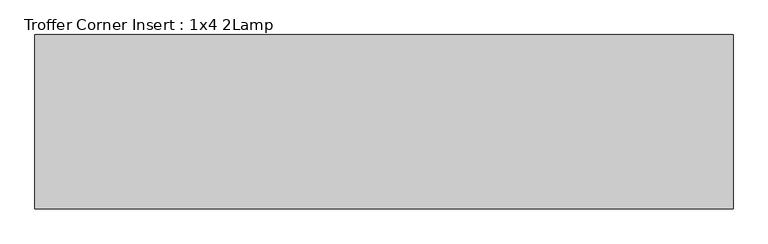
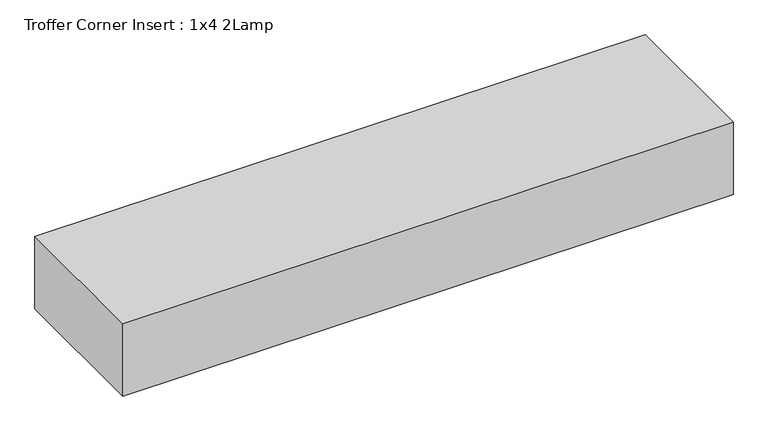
"""IFC4 building model written with IfcOpenShell, lengths in millimetres: light fixture geometry, Troffer Corner Insert : 1x4 2Lamp."""

import ifcopenshell
import ifcopenshell.guid

model = None  # the IFC model being written
_history = None  # IfcOwnerHistory: only IFC2X3 demands one
_inside = {}  # id of a spatial element -> (the spatial element, [elements in it])
_under = {}  # id of a project, library or spatial element -> (it, [spatial elements below it])
_declared = {}  # id of a project -> (the project, [libraries it declares])
_typed = {}  # id of a type object -> (the type object, [elements of that type])
_made_of = {}  # id of a material, layer set ... -> (it, [elements and type objects made of it])


def new_model(schema):
    """Start an empty IFC model of exactly this schema.

    Asked for "IFC4X3", IfcOpenShell would pick the latest addendum, in which some entities
    have other attributes; the version numbers below select the first issue.
    IFC2X3 requires an IfcOwnerHistory on every rooted entity: one is made here for all.
    """
    global model, _history
    if schema == "IFC4X3":
        model = ifcopenshell.file(schema_version=(4, 3, 0, 0))
    else:
        model = ifcopenshell.file(schema=schema)
    _inside.clear()
    _under.clear()
    _declared.clear()
    _typed.clear()
    _made_of.clear()
    _history = None
    if model.schema == "IFC2X3":
        org = make("IfcOrganization", Name="unknown")
        user = make(
            "IfcPersonAndOrganization",
            ThePerson=make("IfcPerson", FamilyName="unknown"),
            TheOrganization=org,
        )
        app = make(
            "IfcApplication",
            ApplicationDeveloper=org,
            Version="unknown",
            ApplicationFullName="unknown",
            ApplicationIdentifier="unknown",
        )
        _history = make(
            "IfcOwnerHistory",
            OwningUser=user,
            OwningApplication=app,
            ChangeAction="ADDED",
            CreationDate=0,
        )
    return model


def make(cls, **values):
    """One entity of the class cls with the attributes given. An attribute that is None is left unset."""
    return model.create_entity(
        cls, **{name: value for name, value in values.items() if value is not None}
    )


def rooted(cls, **values):
    """An entity with a GlobalId (a new one), such as an element, a storey or a relation."""
    return make(cls, GlobalId=ifcopenshell.guid.new(), OwnerHistory=_history, **values)


def si_unit(unit_type, name, prefix=None):
    """IfcSIUnit, for example si_unit("LENGTHUNIT", "METRE", prefix="MILLI")."""
    return make("IfcSIUnit", UnitType=unit_type, Prefix=prefix, Name=name)


def assignment(units):
    """IfcUnitAssignment: the units of a project."""
    return None if units is None else make("IfcUnitAssignment", Units=units)


def point(xyz):
    """IfcCartesianPoint."""
    return None if xyz is None else make("IfcCartesianPoint", Coordinates=xyz)


def direction(xyz):
    """IfcDirection."""
    return None if xyz is None else make("IfcDirection", DirectionRatios=xyz)


def frame(location, z_axis=None, x_axis=None):
    """IfcAxis2Placement3D, a coordinate frame: its origin and axes. An axis left out is left unset."""
    return make(
        "IfcAxis2Placement3D",
        Location=point(location),
        Axis=direction(z_axis),
        RefDirection=direction(x_axis),
    )


def origin():
    """The frame at (0, 0, 0) with its axes left unset."""
    return frame((0.0, 0.0, 0.0))


def place(relative_to, where):
    """IfcLocalPlacement: puts the frame where relative to a parent placement (None: the world)."""
    return make(
        "IfcLocalPlacement", PlacementRelTo=relative_to, RelativePlacement=where
    )


def context(
    kind, dimensions, precision=None, world=None, true_north=None, identifier=None
):
    """IfcGeometricRepresentationContext, for example the 3D "Model" context."""
    return make(
        "IfcGeometricRepresentationContext",
        ContextIdentifier=identifier,
        ContextType=kind,
        CoordinateSpaceDimension=dimensions,
        Precision=precision,
        WorldCoordinateSystem=world,
        TrueNorth=true_north,
    )


def project(units=None, contexts=None):
    """IfcProject with its units and contexts."""
    return rooted(
        "IfcProject",
        Name="project",
        RepresentationContexts=contexts,
        UnitsInContext=assignment(units),
    )


def spatial(cls, under=None, at=None, **own):
    """A site, building, storey or space (cls), placed at a placement, below another one or the project."""
    s = rooted(cls, ObjectPlacement=at, **own)
    if under is not None:
        _under.setdefault(under.id(), (under, []))[1].append(s)
    return s


def polyline(points):
    """IfcPolyline through the points."""
    return make("IfcPolyline", Points=[point(p) for p in points])


def outline(outer, holes=None, kind="AREA"):
    """IfcArbitraryClosedProfileDef: a profile drawn as a closed curve; with holes, ...WithVoids."""
    if holes is None:
        return make("IfcArbitraryClosedProfileDef", ProfileType=kind, OuterCurve=outer)
    return make(
        "IfcArbitraryProfileDefWithVoids",
        ProfileType=kind,
        OuterCurve=outer,
        InnerCurves=holes,
    )


def extrude(swept, where, along, depth):
    """IfcExtrudedAreaSolid: the profile swept, set in the frame where, extruded along a direction by depth."""
    return make(
        "IfcExtrudedAreaSolid",
        SweptArea=swept,
        Position=where,
        ExtrudedDirection=direction(along),
        Depth=depth,
    )


def shape(context_of_items, identifier, shape_type, items):
    """IfcShapeRepresentation: the items that make up one representation, for example the "Body"."""
    return make(
        "IfcShapeRepresentation",
        ContextOfItems=context_of_items,
        RepresentationIdentifier=identifier,
        RepresentationType=shape_type,
        Items=items,
    )


def source(mapping_origin, context_of_items, identifier, shape_type, items):
    """IfcRepresentationMap: a shape defined once, which mapped items show again and again."""
    return make(
        "IfcRepresentationMap",
        MappingOrigin=mapping_origin,
        MappedRepresentation=shape(context_of_items, identifier, shape_type, items),
    )


def transform(
    local_origin,
    x_axis=None,
    y_axis=None,
    z_axis=None,
    scale=None,
    scale2=None,
    scale3=None,
    uniform=True,
):
    """IfcCartesianTransformationOperator3D, or its non-uniform kind. x_axis, y_axis, z_axis: its Axis1, 2, 3."""
    if uniform:
        return make(
            "IfcCartesianTransformationOperator3D",
            Axis1=direction(x_axis),
            Axis2=direction(y_axis),
            LocalOrigin=point(local_origin),
            Scale=scale,
            Axis3=direction(z_axis),
        )
    return make(
        "IfcCartesianTransformationOperator3DnonUniform",
        Axis1=direction(x_axis),
        Axis2=direction(y_axis),
        LocalOrigin=point(local_origin),
        Scale=scale,
        Axis3=direction(z_axis),
        Scale2=scale2,
        Scale3=scale3,
    )


def mapped(mapping_source, mapping_target):
    """IfcMappedItem: shows the shape of a source again, moved by a transform."""
    return make(
        "IfcMappedItem", MappingSource=mapping_source, MappingTarget=mapping_target
    )


def made_of(thing, what):
    """Note that an element or type object is made of a material, layer set ...; save() writes the relation."""
    if what is not None:
        _made_of.setdefault(what.id(), (what, []))[1].append(thing)
    return thing


def element(
    cls,
    number,
    at=None,
    inside=None,
    cuts=None,
    type_object=None,
    material=None,
    context=None,
    identifier="Body",
    shape_type=None,
    held_by="IfcProductDefinitionShape",
    body=None,
    shapes=None,
    **own,
):
    """One element of the class cls, such as IfcWall. Its Tag is "e" and its number.

    at: its placement. inside: the storey or other place that contains it. cuts: it is an
    opening in that element (IfcRelVoidsElement). A single representation is given by context,
    identifier, shape_type and body (its items); several are given by shapes. held_by: the class
    of the entity that holds the representations. save() writes the other relations.
    """
    e = rooted(cls, Tag="e%d" % number, ObjectPlacement=at, **own)
    if body is not None:
        shapes = [shape(context, identifier, shape_type, body)]
    if shapes is not None:
        e.Representation = make(held_by, Representations=shapes)
    if inside is not None:
        _inside.setdefault(inside.id(), (inside, []))[1].append(e)
    if cuts is not None:
        rooted(
            "IfcRelVoidsElement", RelatingBuildingElement=cuts, RelatedOpeningElement=e
        )
    if type_object is not None:
        _typed.setdefault(type_object.id(), (type_object, []))[1].append(e)
    return made_of(e, material)


def aggregate(whole, parts):
    """IfcRelAggregates: a whole, such as a stair, and the parts it consists of."""
    return rooted("IfcRelAggregates", RelatingObject=whole, RelatedObjects=parts)


def save(model, path):
    """Write the relations noted so far, then the file.

    IfcRelAggregates (storeys below a building ...), IfcRelContainedInSpatialStructure (elements
    in a storey), IfcRelDefinesByType, IfcRelAssociatesMaterial and IfcRelDeclares: one each for
    every whole, place, type object, material and project.
    """
    for whole, parts in _under.values():
        aggregate(whole, parts)
    for where, things in _inside.values():
        rooted(
            "IfcRelContainedInSpatialStructure",
            RelatedElements=things,
            RelatingStructure=where,
        )
    for kind, things in _typed.values():
        rooted("IfcRelDefinesByType", RelatedObjects=things, RelatingType=kind)
    for what, things in _made_of.values():
        rooted("IfcRelAssociatesMaterial", RelatedObjects=things, RelatingMaterial=what)
    for by, libraries in _declared.values():
        rooted("IfcRelDeclares", RelatingContext=by, RelatedDefinitions=libraries)
    model.write(path)


def troffer_corner_insert_1x4_2lamp_2a976431(model_context):
    return source(origin(), model_context, "Body", "SweptSolid", [
        extrude(outline(polyline([(609.6, 152.4), (609.6, -152.4), (-609.6, -152.4), (-609.6, 152.4), (609.6, 152.4)])), frame((0.0, 0.0, 2438.4), z_axis=(0.0, 0.0, 1.0), x_axis=(1.0, 0.0, 0.0)), (0.0, 0.0, 1.0), 152.4),
    ])


if __name__ == "__main__":
    model = new_model("IFC4")
    model_context = context("Model", 3, world=origin())
    ifc_project = project(units=[si_unit("LENGTHUNIT", "METRE", prefix="MILLI")], contexts=[model_context])
    site = spatial("IfcSite", under=ifc_project)
    building = spatial("IfcBuilding", under=site)
    placement = place(None, origin())
    troffer_corner_insert_1x4_2lamp_shape = troffer_corner_insert_1x4_2lamp_2a976431(model_context)
    element("IfcLightFixture", 1, ObjectType="Troffer Corner Insert : 1x4 2Lamp", at=placement, inside=building, context=model_context, shape_type="MappedRepresentation", body=[
        mapped(troffer_corner_insert_1x4_2lamp_shape, transform((0.0, 0.0, 0.0), x_axis=(1.0, 0.0, 0.0), y_axis=(0.0, 1.0, 0.0), z_axis=(0.0, 0.0, 1.0))),
    ])
    save(model, "model.ifc")
